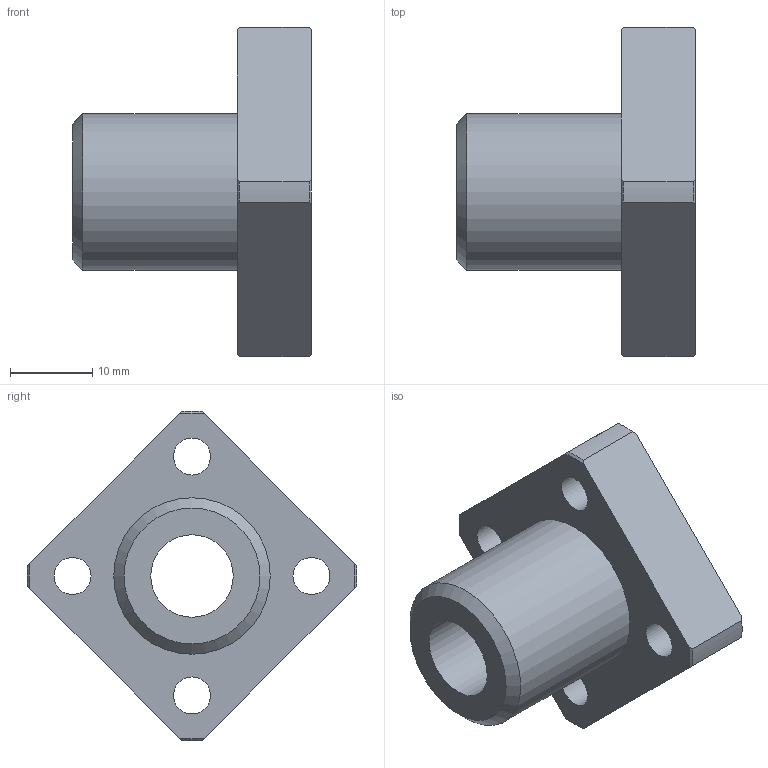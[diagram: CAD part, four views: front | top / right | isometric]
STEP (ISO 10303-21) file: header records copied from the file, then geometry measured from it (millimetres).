
FILE_DESCRIPTION(('STEP AP203'),'1');
FILE_NAME('//192.168.1.1/share/s-4 技術開発/s-4-4_CAD/s-4-4-3_見直し済み/PBC LINEAR修正済み/3D途中/SFPJ/SFPJ/SFPJ10.step','2022-03-24T05:53:58',(' '),(' '),'Spatial InterOp 3D',' ',' ');
FILE_SCHEMA(('CONFIG_CONTROL_DESIGN'));
Length unit declared in the file: millimetre
Products named in the file (1): 1
Bounding box: 29 x 39.99 x 39.99 mm (x, y, z)
Volume: 10357.3 mm3; surface area: 5265.5 mm2
Topology: 1 solids, 1 shells, 34 faces, 85 edges, 58 vertices
Faces by surface type: cylinder 14, plane 11, cone 9
Full cylindrical faces by diameter (mm): 4.5 x4, 7.5 x4, 10 x1, 19 x1
Entity records: 1018 total; most frequent: CARTESIAN_POINT 205, DIRECTION 160, ORIENTED_EDGE 138, AXIS2_PLACEMENT_3D 72, EDGE_CURVE 69, EDGE_LOOP 60, VERTEX_POINT 53, FACE_OUTER_BOUND 44
